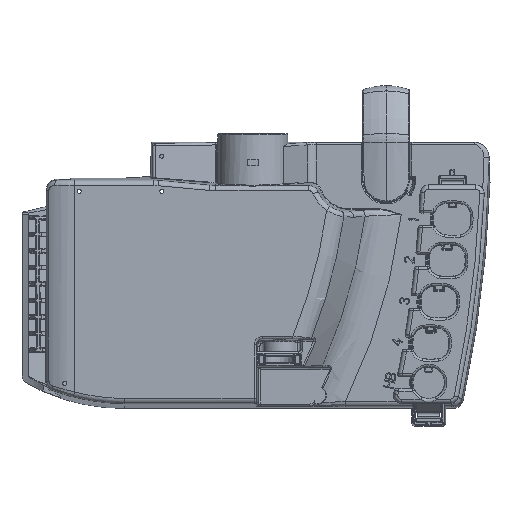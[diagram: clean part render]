
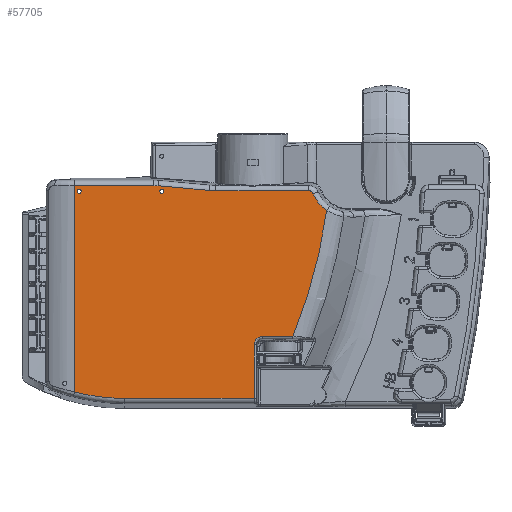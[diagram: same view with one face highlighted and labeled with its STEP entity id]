
A CAD part, top view. The second image highlights one B-rep face of the part: STEP entity #57705.
In plain terms, the highlighted planar face has unit normal (0, 0, 1).
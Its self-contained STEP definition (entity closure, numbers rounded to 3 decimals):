
#10286=CARTESIAN_POINT('',(40.,100.,54.));
#10287=DIRECTION('',(0.,0.,-1.));
#10288=DIRECTION('',(0.,-1.,0.));
#10289=AXIS2_PLACEMENT_3D('',#10286,#10287,#10288);
#10291=CARTESIAN_POINT('',(54.,82.5,54.));
#10292=DIRECTION('',(0.,0.,-1.));
#10293=DIRECTION('',(0.,1.,0.));
#10294=AXIS2_PLACEMENT_3D('',#10291,#10292,#10293);
#10296=DIRECTION('',(0.996,-0.091,0.));
#10297=VECTOR('',#10296,24.756);
#10298=CARTESIAN_POINT('',(56.296,107.644,54.));
#10299=LINE('',#10298,#10297);
#10300=CARTESIAN_POINT('',(84.11,140.,54.));
#10301=DIRECTION('',(0.,0.,1.));
#10302=DIRECTION('',(-0.091,-0.996,0.));
#10303=AXIS2_PLACEMENT_3D('',#10300,#10301,#10302);
#10305=CARTESIAN_POINT('',(128.918,102.752,54.));
#10306=DIRECTION('',(0.,0.,-1.));
#10307=DIRECTION('',(0.,1.,0.));
#10308=AXIS2_PLACEMENT_3D('',#10305,#10306,#10307);
#10310=CARTESIAN_POINT('',(148.5,111.,54.));
#10311=DIRECTION('',(0.,0.,1.));
#10312=DIRECTION('',(-0.922,-0.388,0.));
#10313=AXIS2_PLACEMENT_3D('',#10310,#10311,#10312);
#10315=CARTESIAN_POINT('',(-110.,129.5,54.));
#10316=DIRECTION('',(0.,0.,-1.));
#10317=DIRECTION('',(0.991,-0.135,0.));
#10318=AXIS2_PLACEMENT_3D('',#10315,#10316,#10317);
#10320=CARTESIAN_POINT('',(18.,105.,54.));
#10321=DIRECTION('',(0.,0.,1.));
#10322=DIRECTION('',(1.,0.,0.));
#10323=AXIS2_PLACEMENT_3D('',#10320,#10321,#10322);
#10325=CARTESIAN_POINT('',(18.,105.,54.));
#10326=DIRECTION('',(0.,0.,1.));
#10327=DIRECTION('',(-1.,0.,0.));
#10328=AXIS2_PLACEMENT_3D('',#10325,#10326,#10327);
#10330=CARTESIAN_POINT('',(58.,105.,54.));
#10331=DIRECTION('',(0.,0.,1.));
#10332=DIRECTION('',(1.,0.,0.));
#10333=AXIS2_PLACEMENT_3D('',#10330,#10331,#10332);
#10335=CARTESIAN_POINT('',(58.,105.,54.));
#10336=DIRECTION('',(0.,0.,1.));
#10337=DIRECTION('',(-1.,0.,0.));
#10338=AXIS2_PLACEMENT_3D('',#10335,#10336,#10337);
#10340=DIRECTION('',(1.,0.,0.));
#10341=VECTOR('',#10340,14.701);
#10342=CARTESIAN_POINT('',(106.618,34.678,54.));
#10343=LINE('',#10342,#10341);
#10412=DIRECTION('',(-1.,0.,0.));
#10413=VECTOR('',#10412,44.808);
#10414=CARTESIAN_POINT('',(128.918,105.249,54.));
#10415=LINE('',#10414,#10413);
#16968=DIRECTION('',(0.,-1.,0.));
#16969=VECTOR('',#16968,99.859);
#16970=CARTESIAN_POINT('',(15.748,107.749,54.));
#16971=LINE('',#16970,#16969);
#17001=DIRECTION('',(1.,0.,0.));
#17002=VECTOR('',#17001,62.622);
#17003=CARTESIAN_POINT('',(40.,4.751,54.));
#17004=LINE('',#17003,#17002);
#17030=DIRECTION('',(0.,1.,0.));
#17031=VECTOR('',#17030,25.931);
#17032=CARTESIAN_POINT('',(102.622,4.751,54.));
#17033=LINE('',#17032,#17031);
#17038=CARTESIAN_POINT('',(102.622,30.682,54.));
#17039=CARTESIAN_POINT('',(102.622,30.843,54.));
#17040=CARTESIAN_POINT('',(102.642,31.164,54.));
#17041=CARTESIAN_POINT('',(102.729,31.641,54.));
#17042=CARTESIAN_POINT('',(102.873,32.103,54.));
#17043=CARTESIAN_POINT('',(103.071,32.544,54.));
#17044=CARTESIAN_POINT('',(103.322,32.958,54.));
#17045=CARTESIAN_POINT('',(103.62,33.339,54.));
#17046=CARTESIAN_POINT('',(103.962,33.68,54.));
#17047=CARTESIAN_POINT('',(104.342,33.979,54.));
#17048=CARTESIAN_POINT('',(104.756,34.229,54.));
#17049=CARTESIAN_POINT('',(105.197,34.427,54.));
#17050=CARTESIAN_POINT('',(105.659,34.571,54.));
#17051=CARTESIAN_POINT('',(106.136,34.658,54.));
#17052=CARTESIAN_POINT('',(106.457,34.678,54.));
#17053=CARTESIAN_POINT('',(106.618,34.678,54.));
#17805=DIRECTION('',(-1.,0.,0.));
#17806=VECTOR('',#17805,38.252);
#17807=CARTESIAN_POINT('',(54.,107.749,54.));
#17808=LINE('',#17807,#17806);
#37704=CARTESIAN_POINT('',(40.,4.751,54.));
#37705=CARTESIAN_POINT('',(15.748,7.89,54.));
#37706=VERTEX_POINT('',#37704);
#37707=VERTEX_POINT('',#37705);
#37708=CARTESIAN_POINT('',(106.618,34.678,54.));
#37709=CARTESIAN_POINT('',(121.32,34.678,54.));
#37710=VERTEX_POINT('',#37708);
#37711=VERTEX_POINT('',#37709);
#37712=VERTEX_POINT('',#17038);
#37713=CARTESIAN_POINT('',(102.622,4.751,54.));
#37714=VERTEX_POINT('',#37713);
#37715=CARTESIAN_POINT('',(15.748,107.749,54.));
#37716=VERTEX_POINT('',#37715);
#37717=CARTESIAN_POINT('',(54.,107.749,54.));
#37718=VERTEX_POINT('',#37717);
#37719=CARTESIAN_POINT('',(56.296,107.644,54.));
#37720=VERTEX_POINT('',#37719);
#37721=CARTESIAN_POINT('',(80.949,105.393,54.));
#37722=VERTEX_POINT('',#37721);
#37723=CARTESIAN_POINT('',(84.11,105.249,54.));
#37724=VERTEX_POINT('',#37723);
#37725=CARTESIAN_POINT('',(128.918,105.249,54.));
#37726=VERTEX_POINT('',#37725);
#37727=CARTESIAN_POINT('',(131.22,103.721,54.));
#37728=VERTEX_POINT('',#37727);
#37729=CARTESIAN_POINT('',(137.701,95.671,54.));
#37730=VERTEX_POINT('',#37729);
#37731=CARTESIAN_POINT('',(19.,105.,54.));
#37732=CARTESIAN_POINT('',(17.,105.,54.));
#37733=VERTEX_POINT('',#37731);
#37734=VERTEX_POINT('',#37732);
#37735=CARTESIAN_POINT('',(59.,105.,54.));
#37736=CARTESIAN_POINT('',(57.,105.,54.));
#37737=VERTEX_POINT('',#37735);
#37738=VERTEX_POINT('',#37736);
#57659=CARTESIAN_POINT('',(0.,0.,54.));
#57660=DIRECTION('',(0.,0.,1.));
#57661=DIRECTION('',(1.,0.,0.));
#57662=AXIS2_PLACEMENT_3D('',#57659,#57660,#57661);
#57663=PLANE('',#57662);
#57665=ORIENTED_EDGE('',*,*,#57664,.F.);
#57667=ORIENTED_EDGE('',*,*,#57666,.F.);
#57669=ORIENTED_EDGE('',*,*,#57668,.F.);
#57671=ORIENTED_EDGE('',*,*,#57670,.F.);
#57673=ORIENTED_EDGE('',*,*,#57672,.T.);
#57675=ORIENTED_EDGE('',*,*,#57674,.F.);
#57677=ORIENTED_EDGE('',*,*,#57676,.F.);
#57679=ORIENTED_EDGE('',*,*,#57678,.T.);
#57681=ORIENTED_EDGE('',*,*,#57680,.T.);
#57683=ORIENTED_EDGE('',*,*,#57682,.T.);
#57685=ORIENTED_EDGE('',*,*,#57684,.F.);
#57687=ORIENTED_EDGE('',*,*,#57686,.T.);
#57689=ORIENTED_EDGE('',*,*,#57688,.T.);
#57691=ORIENTED_EDGE('',*,*,#57690,.T.);
#57692=EDGE_LOOP('',(#57665,#57667,#57669,#57671,#57673,#57675,#57677,#57679,
#57681,#57683,#57685,#57687,#57689,#57691));
#57693=FACE_OUTER_BOUND('',#57692,.F.);
#57695=ORIENTED_EDGE('',*,*,#57694,.T.);
#57697=ORIENTED_EDGE('',*,*,#57696,.T.);
#57698=EDGE_LOOP('',(#57695,#57697));
#57699=FACE_BOUND('',#57698,.F.);
#57700=ORIENTED_EDGE('',*,*,#57649,.T.);
#57702=ORIENTED_EDGE('',*,*,#57701,.T.);
#57703=EDGE_LOOP('',(#57700,#57702));
#57704=FACE_BOUND('',#57703,.F.);
#57705=ADVANCED_FACE('',(#57693,#57699,#57704),#57663,.T.);
#10290=CIRCLE('',#10289,95.249);
#10295=CIRCLE('',#10294,25.249);
#10304=CIRCLE('',#10303,34.751);
#10309=CIRCLE('',#10308,2.497);
#10314=CIRCLE('',#10313,18.751);
#10319=CIRCLE('',#10318,250.);
#10324=CIRCLE('',#10323,1.);
#10329=CIRCLE('',#10328,1.);
#10334=CIRCLE('',#10333,1.);
#10339=CIRCLE('',#10338,1.);
#17054=B_SPLINE_CURVE_WITH_KNOTS('',3,(#17038,#17039,#17040,#17041,#17042,
#17043,#17044,#17045,#17046,#17047,#17048,#17049,#17050,#17051,#17052,#17053),
.UNSPECIFIED.,.F.,.F.,(4,1,1,1,1,1,1,1,1,1,1,1,1,4),(0.,0.077,
0.154,0.231,0.308,0.385,
0.462,0.538,0.615,0.692,
0.769,0.846,0.923,1.),.UNSPECIFIED.);
#57649=EDGE_CURVE('',#37737,#37738,#10334,.T.);
#57664=EDGE_CURVE('',#37710,#37711,#10343,.T.);
#57666=EDGE_CURVE('',#37712,#37710,#17054,.T.);
#57668=EDGE_CURVE('',#37714,#37712,#17033,.T.);
#57670=EDGE_CURVE('',#37706,#37714,#17004,.T.);
#57672=EDGE_CURVE('',#37706,#37707,#10290,.T.);
#57674=EDGE_CURVE('',#37716,#37707,#16971,.T.);
#57676=EDGE_CURVE('',#37718,#37716,#17808,.T.);
#57678=EDGE_CURVE('',#37718,#37720,#10295,.T.);
#57680=EDGE_CURVE('',#37720,#37722,#10299,.T.);
#57682=EDGE_CURVE('',#37722,#37724,#10304,.T.);
#57684=EDGE_CURVE('',#37726,#37724,#10415,.T.);
#57686=EDGE_CURVE('',#37726,#37728,#10309,.T.);
#57688=EDGE_CURVE('',#37728,#37730,#10314,.T.);
#57690=EDGE_CURVE('',#37730,#37711,#10319,.T.);
#57694=EDGE_CURVE('',#37733,#37734,#10324,.T.);
#57696=EDGE_CURVE('',#37734,#37733,#10329,.T.);
#57701=EDGE_CURVE('',#37738,#37737,#10339,.T.);
